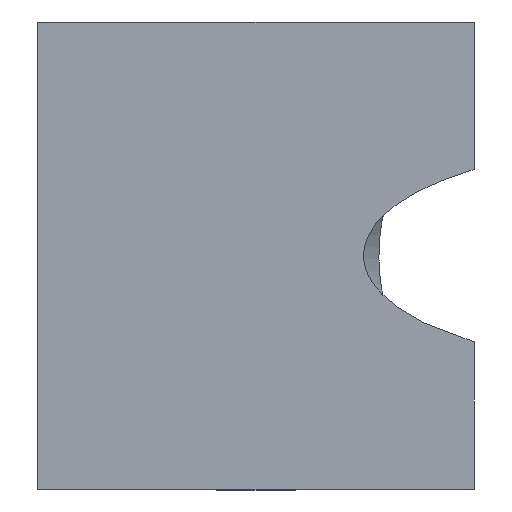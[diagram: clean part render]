
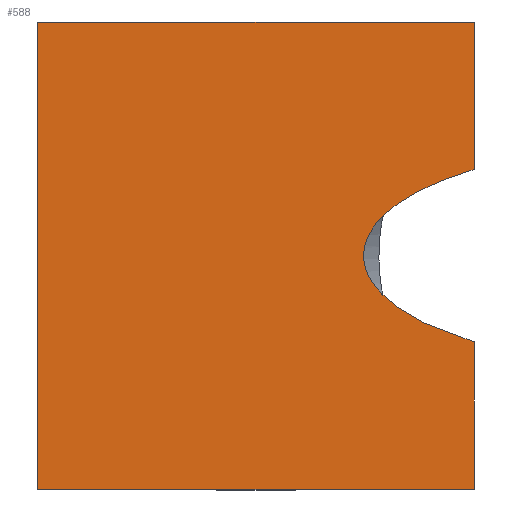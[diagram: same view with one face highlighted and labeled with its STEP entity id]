
A CAD part, top view. The second image highlights one B-rep face of the part: STEP entity #588.
In plain terms, the highlighted planar face has unit normal (0, 0, 1).
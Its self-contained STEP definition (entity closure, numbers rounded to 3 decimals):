
#33=CARTESIAN_POINT('',(14.,-5.535,0.));
#34=CARTESIAN_POINT('',(13.221,-5.305,0.));
#35=CARTESIAN_POINT('',(11.914,-4.843,0.));
#36=CARTESIAN_POINT('',(9.914,-3.921,0.));
#37=CARTESIAN_POINT('',(8.246,-2.768,0.));
#38=CARTESIAN_POINT('',(7.141,-1.384,0.));
#39=CARTESIAN_POINT('',(6.787,0.,0.));
#40=CARTESIAN_POINT('',(7.141,1.384,0.));
#41=CARTESIAN_POINT('',(8.246,2.768,0.));
#42=CARTESIAN_POINT('',(9.914,3.921,0.));
#43=CARTESIAN_POINT('',(11.914,4.843,0.));
#44=CARTESIAN_POINT('',(13.221,5.305,0.));
#45=CARTESIAN_POINT('',(14.,5.535,0.));
#47=DIRECTION('',(-1.,0.,0.));
#48=VECTOR('',#47,28.);
#49=CARTESIAN_POINT('',(14.,-15.,0.));
#50=LINE('',#49,#48);
#51=DIRECTION('',(1.,0.,0.));
#52=VECTOR('',#51,28.);
#53=CARTESIAN_POINT('',(-14.,15.,0.));
#54=LINE('',#53,#52);
#105=DIRECTION('',(0.,1.,0.));
#106=VECTOR('',#105,9.465);
#107=CARTESIAN_POINT('',(14.,5.535,0.));
#108=LINE('',#107,#106);
#109=DIRECTION('',(0.,1.,0.));
#110=VECTOR('',#109,9.465);
#111=CARTESIAN_POINT('',(14.,-15.,0.));
#112=LINE('',#111,#110);
#204=DIRECTION('',(0.,1.,0.));
#205=VECTOR('',#204,30.);
#206=CARTESIAN_POINT('',(-14.,-15.,0.));
#207=LINE('',#206,#205);
#437=CARTESIAN_POINT('',(14.,-15.,0.));
#439=VERTEX_POINT('',#437);
#441=CARTESIAN_POINT('',(14.,15.,0.));
#443=VERTEX_POINT('',#441);
#461=CARTESIAN_POINT('',(-14.,-15.,0.));
#463=VERTEX_POINT('',#461);
#465=CARTESIAN_POINT('',(-14.,15.,0.));
#467=VERTEX_POINT('',#465);
#501=VERTEX_POINT('',#33);
#502=VERTEX_POINT('',#45);
#571=CARTESIAN_POINT('',(0.,-15.,0.));
#572=DIRECTION('',(0.,0.,1.));
#573=DIRECTION('',(1.,0.,0.));
#574=AXIS2_PLACEMENT_3D('',#571,#572,#573);
#575=PLANE('',#574);
#577=ORIENTED_EDGE('',*,*,#576,.F.);
#579=ORIENTED_EDGE('',*,*,#578,.F.);
#580=ORIENTED_EDGE('',*,*,#534,.T.);
#582=ORIENTED_EDGE('',*,*,#581,.T.);
#583=ORIENTED_EDGE('',*,*,#561,.T.);
#585=ORIENTED_EDGE('',*,*,#584,.F.);
#586=EDGE_LOOP('',(#577,#579,#580,#582,#583,#585));
#587=FACE_OUTER_BOUND('',#586,.F.);
#588=ADVANCED_FACE('',(#587),#575,.T.);
#46=B_SPLINE_CURVE_WITH_KNOTS('',3,(#33,#34,#35,#36,#37,#38,#39,#40,#41,#42,#43,
#44,#45),.UNSPECIFIED.,.F.,.F.,(4,1,1,1,1,1,1,1,1,1,4),(0.,0.063,0.125,
0.25,0.375,0.5,0.625,0.75,0.875,0.938,1.),.UNSPECIFIED.);
#534=EDGE_CURVE('',#439,#463,#50,.T.);
#561=EDGE_CURVE('',#467,#443,#54,.T.);
#576=EDGE_CURVE('',#501,#502,#46,.T.);
#578=EDGE_CURVE('',#439,#501,#112,.T.);
#581=EDGE_CURVE('',#463,#467,#207,.T.);
#584=EDGE_CURVE('',#502,#443,#108,.T.);
